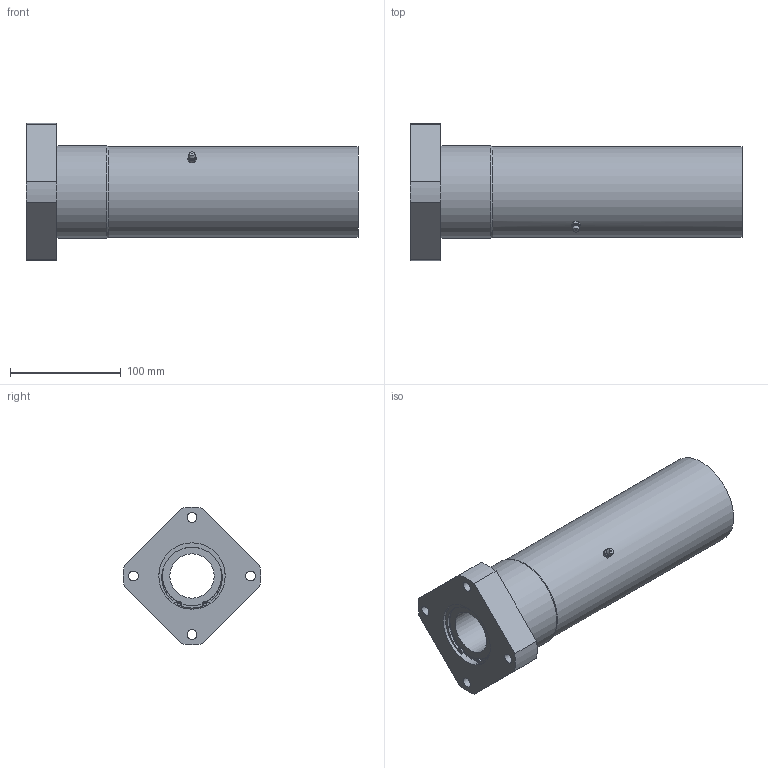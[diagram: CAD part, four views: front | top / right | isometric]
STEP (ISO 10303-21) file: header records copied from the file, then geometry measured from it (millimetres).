
FILE_DESCRIPTION((''),'2;1');
FILE_NAME('D:\製品 (図面)\カタログ用3D\リニアベアリング関連(改)\STEP形式\LFWL\LFWL40B.stp','2010-01-22T16:36:37',('Tsuchiya'),(''),'Autodesk Inventor 10','Autodesk Inventor 10','');
FILE_SCHEMA(('AUTOMOTIVE_DESIGN { 1 0 10303 214 1 1 1 1 }'));
Length unit declared in the file: millimetre
Products named in the file (1): LFWL40B
Bounding box: 300 x 123.84 x 123.84 mm (x, y, z)
Volume: 1318754.2 mm3; surface area: 151702.5 mm2
Topology: 1 solids, 7 shells, 114 faces, 270 edges, 169 vertices
Faces by surface type: bspline 36, plane 35, cylinder 31, cone 8, sphere 2, torus 2
Full cylindrical faces by diameter (mm): 2.5 x2, 9 x4, 40 x2, 53.4 x2, 57 x2, 60 x8, 82 x1, 84 x1
Entity records: 3359 total; most frequent: CARTESIAN_POINT 975, DIRECTION 502, ORIENTED_EDGE 420, AXIS2_PLACEMENT_3D 225, EDGE_CURVE 210, EDGE_LOOP 188, VERTEX_POINT 150, CIRCLE 142
